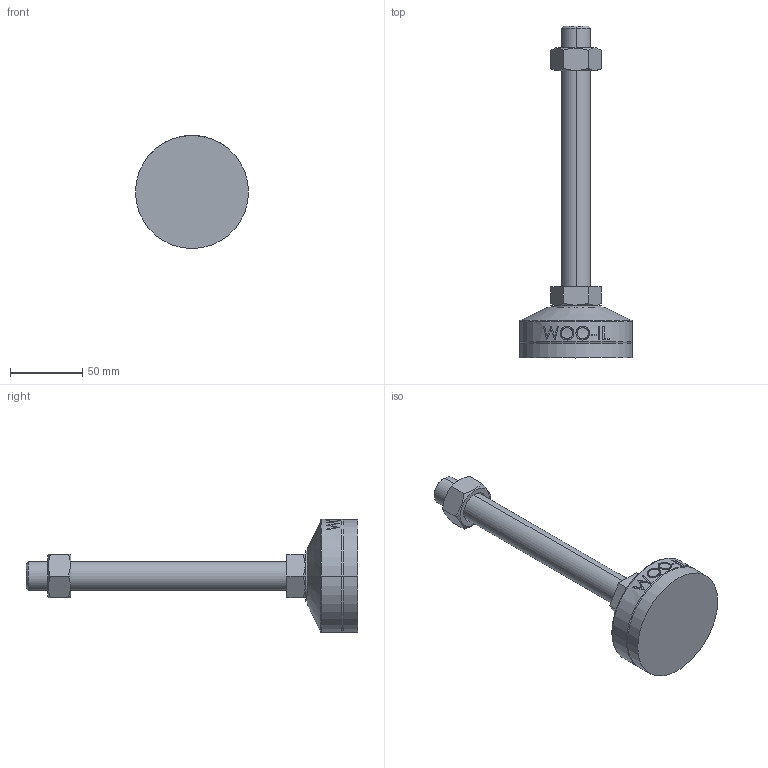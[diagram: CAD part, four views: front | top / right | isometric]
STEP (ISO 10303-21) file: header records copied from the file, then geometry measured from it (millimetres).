
FILE_DESCRIPTION (( 'STEP AP214' ), '1' );
FILE_NAME ('MFZR78-M20-180.step', '2021-03-29T06:58:40', ( '' ), ( '' ), 'SwSTEP 2.0', 'SolidWorks 2019', '' );
FILE_SCHEMA (( 'AUTOMOTIVE_DESIGN' ));
Length unit declared in the file: millimetre
Products named in the file (2): MFZR78-M20-180
Bounding box: 78 x 229 x 78 mm (x, y, z)
Volume: 222985.6 mm3; surface area: 34193.8 mm2
Topology: 3 solids, 3 shells, 102 faces, 235 edges, 150 vertices
Faces by surface type: plane 48, cylinder 18, bspline 16, cone 14, torus 6
Entity records: 4492 total; most frequent: CARTESIAN_POINT 2237, ORIENTED_EDGE 470, DIRECTION 415, EDGE_CURVE 235, AXIS2_PLACEMENT_3D 158, VERTEX_POINT 150, EDGE_LOOP 115, ADVANCED_FACE 102
